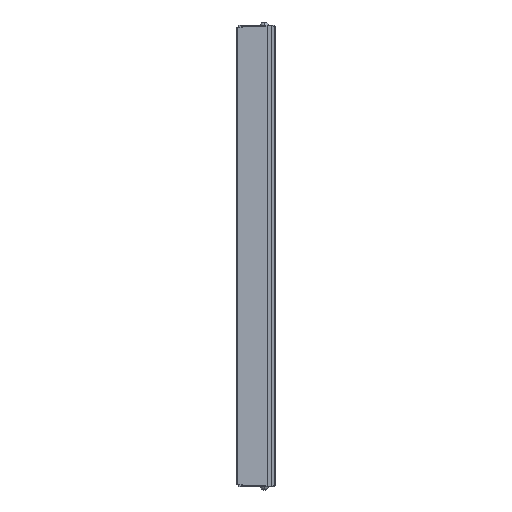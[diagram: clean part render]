
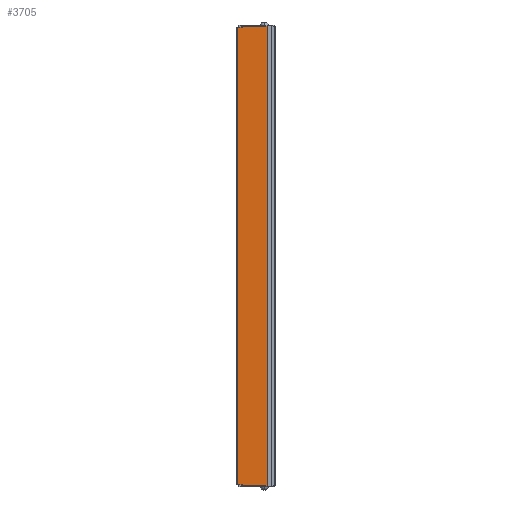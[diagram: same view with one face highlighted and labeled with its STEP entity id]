
A CAD part, left-side view. The second image highlights one B-rep face of the part: STEP entity #3705.
In plain terms, the highlighted planar face has unit normal (-1, 0, 0).
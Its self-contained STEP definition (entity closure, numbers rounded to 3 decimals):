
#189=DIRECTION('',(0.,1.,0.));
#190=VECTOR('',#189,3.3);
#191=CARTESIAN_POINT('',(-19.,13.2,162.));
#192=LINE('',#191,#190);
#389=DIRECTION('',(0.,0.,-1.));
#390=VECTOR('',#389,1.);
#391=CARTESIAN_POINT('',(-19.,13.2,-162.));
#392=LINE('',#391,#390);
#401=DIRECTION('',(0.,1.,0.));
#402=VECTOR('',#401,3.3);
#403=CARTESIAN_POINT('',(-19.,13.2,-162.));
#404=LINE('',#403,#402);
#405=DIRECTION('',(0.,0.,1.));
#406=VECTOR('',#405,1.);
#407=CARTESIAN_POINT('',(-19.,13.2,162.));
#408=LINE('',#407,#406);
#413=DIRECTION('',(0.,0.,1.));
#414=VECTOR('',#413,326.);
#415=CARTESIAN_POINT('',(-19.,-4.3,-163.));
#416=LINE('',#415,#414);
#961=DIRECTION('',(0.,-1.,0.));
#962=VECTOR('',#961,17.5);
#963=CARTESIAN_POINT('',(-19.,13.2,-163.));
#964=LINE('',#963,#962);
#2117=DIRECTION('',(0.,1.,0.));
#2118=VECTOR('',#2117,17.5);
#2119=CARTESIAN_POINT('',(-19.,-4.3,163.));
#2120=LINE('',#2119,#2118);
#2321=DIRECTION('',(0.,0.,-1.));
#2322=VECTOR('',#2321,324.);
#2323=CARTESIAN_POINT('',(-19.,16.5,162.));
#2324=LINE('',#2323,#2322);
#2357=CARTESIAN_POINT('',(-19.,16.5,-162.));
#2358=VERTEX_POINT('',#2357);
#2367=CARTESIAN_POINT('',(-19.,16.5,162.));
#2368=VERTEX_POINT('',#2367);
#2413=CARTESIAN_POINT('',(-19.,13.2,163.));
#2414=VERTEX_POINT('',#2413);
#2619=CARTESIAN_POINT('',(-19.,-4.3,163.));
#2621=VERTEX_POINT('',#2619);
#2701=CARTESIAN_POINT('',(-19.,13.2,162.));
#2703=VERTEX_POINT('',#2701);
#2775=CARTESIAN_POINT('',(-19.,13.2,-163.));
#2777=VERTEX_POINT('',#2775);
#2781=CARTESIAN_POINT('',(-19.,-4.3,-163.));
#2782=VERTEX_POINT('',#2781);
#3011=CARTESIAN_POINT('',(-19.,13.2,-162.));
#3012=VERTEX_POINT('',#3011);
#3686=CARTESIAN_POINT('',(-19.,16.5,-162.));
#3687=DIRECTION('',(-1.,0.,0.));
#3688=DIRECTION('',(0.,-1.,0.));
#3689=AXIS2_PLACEMENT_3D('',#3686,#3687,#3688);
#3690=PLANE('',#3689);
#3692=ORIENTED_EDGE('',*,*,#3691,.F.);
#3694=ORIENTED_EDGE('',*,*,#3693,.F.);
#3695=ORIENTED_EDGE('',*,*,#3677,.F.);
#3696=ORIENTED_EDGE('',*,*,#3126,.T.);
#3698=ORIENTED_EDGE('',*,*,#3697,.F.);
#3699=ORIENTED_EDGE('',*,*,#3356,.F.);
#3700=ORIENTED_EDGE('',*,*,#3522,.T.);
#3702=ORIENTED_EDGE('',*,*,#3701,.F.);
#3703=EDGE_LOOP('',(#3692,#3694,#3695,#3696,#3698,#3699,#3700,#3702));
#3704=FACE_OUTER_BOUND('',#3703,.F.);
#3126=EDGE_CURVE('',#3012,#2358,#404,.T.);
#3356=EDGE_CURVE('',#2703,#2368,#192,.T.);
#3522=EDGE_CURVE('',#2703,#2414,#408,.T.);
#3677=EDGE_CURVE('',#3012,#2777,#392,.T.);
#3691=EDGE_CURVE('',#2782,#2621,#416,.T.);
#3693=EDGE_CURVE('',#2777,#2782,#964,.T.);
#3697=EDGE_CURVE('',#2368,#2358,#2324,.T.);
#3701=EDGE_CURVE('',#2621,#2414,#2120,.T.);
#3705=ADVANCED_FACE('',(#3704),#3690,.T.);
